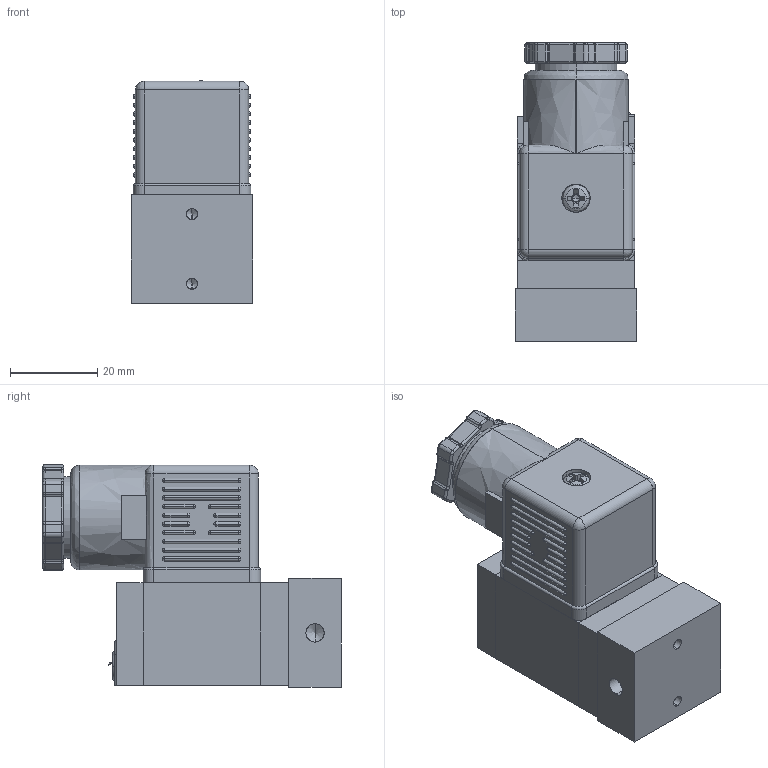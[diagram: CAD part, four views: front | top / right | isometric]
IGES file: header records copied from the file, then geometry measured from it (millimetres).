
Start section: SolidWorks IGES file using analytic representation for surfaces
Global section: file name: C:\Users\Toshiba\Desktop\SS231-M5-#C#.IGS; native system: SolidWorks 2014; preprocessor: SolidWorks 2014; author: Toshiba; date: 160801.111515; units: millimetre
Bounding box: 28 x 68.5 x 51.14 mm (x, y, z)
Surface area: 19005.4 mm2 (no closed solid volume)
Topology: 0 solids, 0 shells, 571 faces, 4430 edges, 4290 vertices
Faces by surface type: revolution 364, bspline 207
